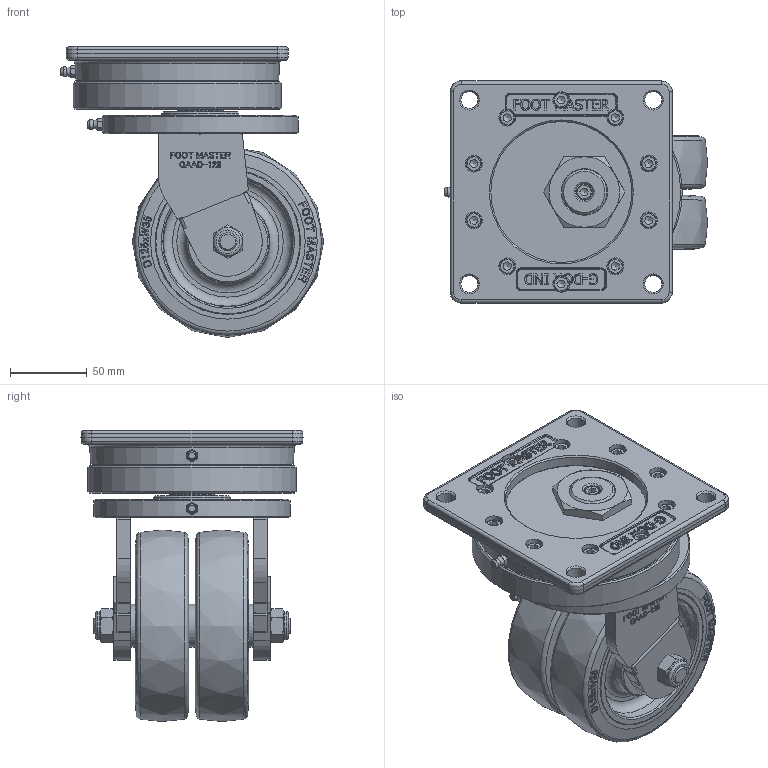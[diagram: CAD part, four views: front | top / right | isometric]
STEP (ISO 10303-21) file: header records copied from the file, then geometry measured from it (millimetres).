
FILE_DESCRIPTION(/* description */ (''),/* implementation_level */ '2;1');
FILE_NAME(/* name */ 'Z:\1.기술연구소\1.제품도면정리\11.개발중도면\AGV-CASTER\AGV CASTER 125 150 SERIES_제품도면\홈페이지용 3D(일반배포용)\GAAD-125-ASF-HUD.stp',/* time_stamp */ '2019-08-16T14:48:21+09:00',/* author */ ('장용하'),/* organization */ (''),/* preprocessor_version */ 'ST-DEVELOPER v16.13',/* originating_system */ 'Autodesk Inventor 2018',/* authorisation */ '');
FILE_SCHEMA (('AUTOMOTIVE_DESIGN { 1 0 10303 214 3 1 1 }'));
Products named in the file (1): GAAD-125-ASF-HUD
Bounding box: 171.8 x 145 x 190 mm (x, y, z)
Volume: 1528187.7 mm3; surface area: 211663.9 mm2
Topology: 1 solids, 1 shells, 2416 faces, 6584 edges, 4335 vertices
Faces by surface type: plane 1541, bspline 560, cone 146, cylinder 121, torus 46, sphere 2
Full cylindrical faces by diameter (mm): 10 x11, 11 x15, 18.5 x2, 28 x3, 29.93 x1, 50 x1, 87 x4, 92 x1, 95 x4, 100 x1, 128 x1, 130.3 x1, 136 x1
Entity records: 82484 total; most frequent: CARTESIAN_POINT 23836, ORIENTED_EDGE 12810, DIRECTION 9406, EDGE_CURVE 6403, LINE 4316, VECTOR 4316, VERTEX_POINT 4297, EDGE_LOOP 2738
